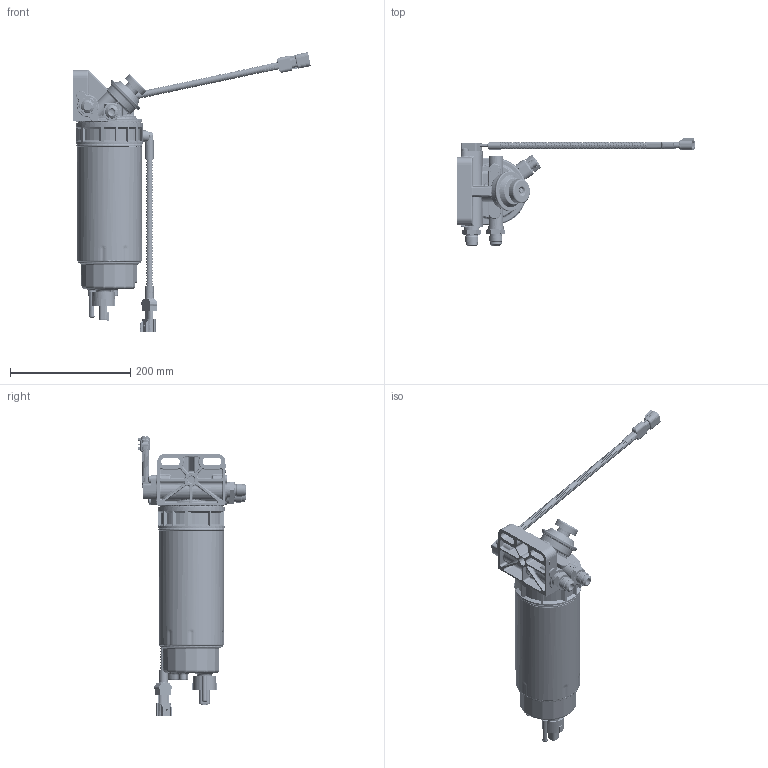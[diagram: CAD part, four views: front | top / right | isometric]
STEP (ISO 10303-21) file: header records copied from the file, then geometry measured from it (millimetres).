
FILE_DESCRIPTION(('CATIA V6 STEP','CAx-IF Rec.Pracs.--- Composite Materials ---3.4---2017-06-13'),'2;1');
FILE_NAME('\\?\C:\Users\i0212090\Desktop\400403-01013A 00 FILTER KIT,FUELFOR DX0508 Released M.stp','2025-09-08T01:10:48+00:00',('none'),('none'),'3DEXPERIENCE Platform3DEXPERIENCE R2021x HotFix 10','3DEXPERIENCE Platform STEP AP203 v2','none');
FILE_SCHEMA(('CONFIG_CONTROL_DESIGN'));
Length unit declared in the file: millimetre
Bounding box: 394.61 x 180.17 x 465.07 mm (x, y, z)
Volume: 816571.8 mm3; surface area: 565874.5 mm2
Topology: 3 solids, 38 shells, 8831 faces, 24655 edges, 15832 vertices
Faces by surface type: cylinder 2967, plane 2573, bspline 2169, torus 648, cone 332, sphere 79, revolution 61, extrusion 2
Entity records: 381507 total; most frequent: CARTESIAN_POINT 193809, ORIENTED_EDGE 48982, EDGE_CURVE 24499, DIRECTION 21729, VERTEX_POINT 15832, AXIS2_PLACEMENT_3D 11363, EDGE_LOOP 9681, B_SPLINE_CURVE_WITH_KNOTS 9651
